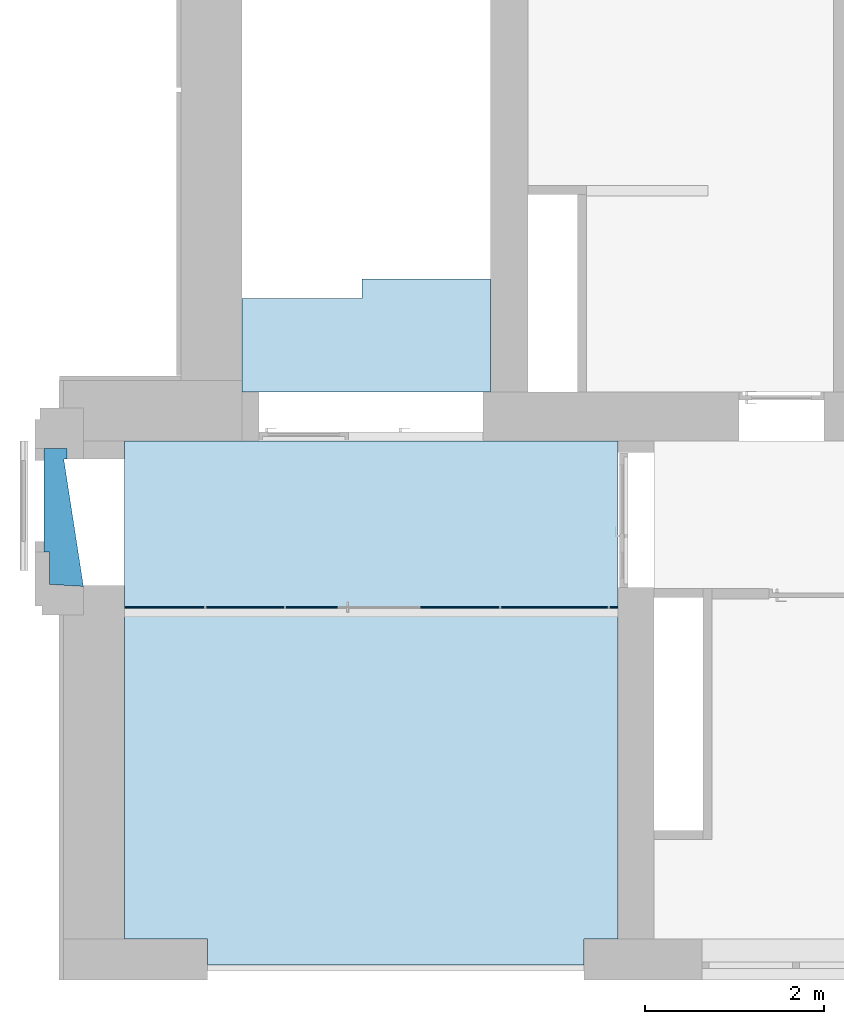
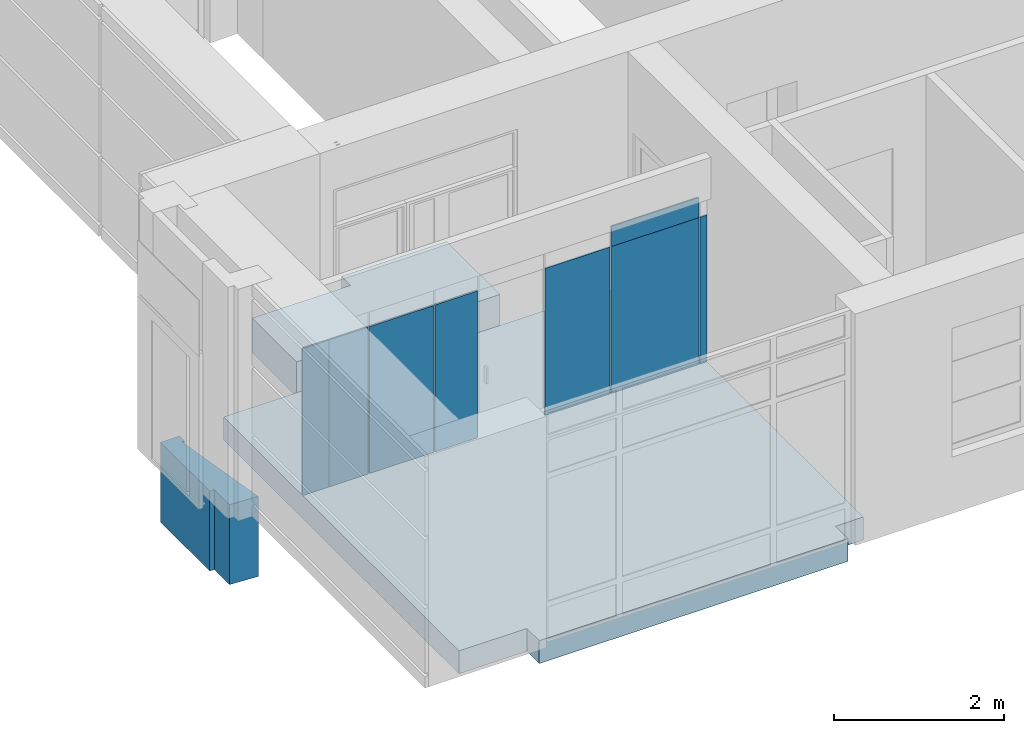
# One storey, part 24 of 73: 8 plates, 3 slabs, 1 element without a shape of its own.
"""IFC2X3 building model written with IfcOpenShell, lengths in millimetres."""

from ifc_helpers import new_model, entity, si_unit, converted_unit, derived_unit, direction, frame, origin, origin_2d_with_axis, place, context, subcontext, project, spatial, polyline, rectangle, outline, extrude, source, transform, mapped, material, layer, layer_set, layer_usage, type_object, type_shapes, element, aggregate, save


model = new_model("IFC2X3")

# Units and contexts
model_context = context("Model", 3, precision=0.01, world=origin(), true_north=direction((6.12303176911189e-17, 1.0)))
body_context = subcontext(model_context, "Body", "Model", "MODEL_VIEW")
ifc_project = project(units=[si_unit("LENGTHUNIT", "METRE", prefix="MILLI"), si_unit("AREAUNIT", "SQUARE_METRE"), si_unit("VOLUMEUNIT", "CUBIC_METRE"), converted_unit("PLANEANGLEUNIT", "DEGREE", entity("IfcRatioMeasure", 0.0174532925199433), si_unit("PLANEANGLEUNIT", "RADIAN"), dimensions=[0, 0, 0, 0, 0, 0, 0]), si_unit("MASSUNIT", "GRAM", prefix="KILO"), derived_unit("MASSDENSITYUNIT", [(si_unit("MASSUNIT", "GRAM", prefix="KILO"), 1), (si_unit("LENGTHUNIT", "METRE"), -3)]), si_unit("TIMEUNIT", "SECOND"), si_unit("FREQUENCYUNIT", "HERTZ"), si_unit("THERMODYNAMICTEMPERATUREUNIT", "DEGREE_CELSIUS"), derived_unit("THERMALTRANSMITTANCEUNIT", [(si_unit("MASSUNIT", "GRAM", prefix="KILO"), 1), (si_unit("THERMODYNAMICTEMPERATUREUNIT", "KELVIN"), -1), (si_unit("TIMEUNIT", "SECOND"), -3)]), derived_unit("VOLUMETRICFLOWRATEUNIT", [(si_unit("LENGTHUNIT", "METRE"), 3), (si_unit("TIMEUNIT", "SECOND"), -1)]), si_unit("ELECTRICCURRENTUNIT", "AMPERE"), si_unit("ELECTRICVOLTAGEUNIT", "VOLT"), si_unit("POWERUNIT", "WATT"), si_unit("FORCEUNIT", "NEWTON", prefix="KILO"), si_unit("ILLUMINANCEUNIT", "LUX"), si_unit("LUMINOUSFLUXUNIT", "LUMEN"), si_unit("LUMINOUSINTENSITYUNIT", "CANDELA"), derived_unit("USERDEFINED", [(si_unit("MASSUNIT", "GRAM", prefix="KILO"), -1), (si_unit("LENGTHUNIT", "METRE"), -2), (si_unit("TIMEUNIT", "SECOND"), 3), (si_unit("LUMINOUSFLUXUNIT", "LUMEN"), 1)]), derived_unit("LINEARVELOCITYUNIT", [(si_unit("LENGTHUNIT", "METRE"), 1), (si_unit("TIMEUNIT", "SECOND"), -1)]), si_unit("PRESSUREUNIT", "PASCAL"), derived_unit("USERDEFINED", [(si_unit("LENGTHUNIT", "METRE"), -2), (si_unit("MASSUNIT", "GRAM", prefix="KILO"), 1), (si_unit("TIMEUNIT", "SECOND"), -2)])], contexts=[model_context])

# Site, building, storey
site_placement = place(None, frame((-151.875543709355, 2715.0, 0.0)))
site = spatial("IfcSite", under=ifc_project, at=site_placement, Name="Surface", CompositionType="ELEMENT")
building_placement = place(site_placement, origin())
building = spatial("IfcBuilding", under=site, at=building_placement, CompositionType="ELEMENT")
storey_placement = place(building_placement, frame((0.0, 0.0, 6730.43000000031)))
storey = spatial("IfcBuildingStorey", under=building, at=storey_placement, Name="3 korrus", CompositionType="ELEMENT", Elevation=6730.43000000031)

# Curtain wall, plates
curtain_wall_type = type_object("IfcCurtainWallType", Name="Curtain Wall:Klaassein KLS-07", PredefinedType="NOTDEFINED")
curtain_wall_placement = place(storey_placement, frame((0.0, 0.0, -6730.43000000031)))
curtain_wall = element("IfcCurtainWall", 1, at=curtain_wall_placement, inside=storey, type_object=curtain_wall_type, Name="Curtain Wall:Klaassein KLS-07", ObjectType="Curtain Wall:Klaassein KLS-07")
ifc_material_1 = material(Name="<Unnamed>")
ifc_layer_1 = layer(ifc_material_1, 20.0)
ifc_layer_set_1 = layer_set([ifc_layer_1], Name="Curtain Wall:Klaassein KLS-01")
ifc_layer_usage_1 = layer_usage(ifc_layer_set_1, "AXIS3", "POSITIVE", 0.0)
plate_type_1 = type_object("IfcPlateType", Name="Glazed", PredefinedType="CURTAIN_PANEL", material=ifc_layer_set_1)
shared_shape_1 = source(origin(), body_context, "Body", "SweptSolid", [
    extrude(rectangle(XDim=20.0, YDim=880.000000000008, at=origin_2d_with_axis()), frame((0.0, 0.0, 0.0), z_axis=(0.0, 0.0, 1.0), x_axis=(0.0, 1.0, 0.0)), (0.0, 0.0, 1.0), 2110.0),
])
type_shapes(plate_type_1, [shared_shape_1])
plate_1_placement = place(curtain_wall_placement, frame((4199.87554580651, 4155.04146275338, 6730.43000000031)))
plate_1 = element("IfcPlate", 2, at=plate_1_placement, type_object=plate_type_1, material=ifc_layer_usage_1, Name="System Panel:Glazed", ObjectType="Glazed", context=body_context, shape_type="MappedRepresentation", body=[
    mapped(shared_shape_1, transform((0.0, 0.0, 0.0), scale=1.0)),
])
ifc_layer_usage_2 = layer_usage(ifc_layer_set_1, "AXIS3", "POSITIVE", 0.0)
plate_type_2 = type_object("IfcPlateType", Name="Glazed", PredefinedType="CURTAIN_PANEL", material=ifc_layer_set_1)
shared_shape_2 = source(origin(), body_context, "Body", "SweptSolid", [
    extrude(rectangle(XDim=20.0, YDim=580.0, at=origin_2d_with_axis()), frame((0.0, 0.0, 0.0), z_axis=(0.0, 0.0, 1.0), x_axis=(0.0, 1.0, 0.0)), (0.0, 0.0, 1.0), 2110.0),
])
type_shapes(plate_type_2, [shared_shape_2])
plate_2_placement = place(curtain_wall_placement, frame((2549.87554580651, 4155.04146275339, 6730.43000000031)))
plate_2 = element("IfcPlate", 3, at=plate_2_placement, type_object=plate_type_2, material=ifc_layer_usage_2, Name="System Panel:Glazed", ObjectType="Glazed", context=body_context, shape_type="MappedRepresentation", body=[
    mapped(shared_shape_2, transform((0.0, 0.0, 0.0), scale=1.0)),
])
ifc_layer_usage_3 = layer_usage(ifc_layer_set_1, "AXIS3", "POSITIVE", 0.0)
plate_type_3 = type_object("IfcPlateType", Name="Glazed", PredefinedType="CURTAIN_PANEL", material=ifc_layer_set_1)
shared_shape_3 = source(origin(), body_context, "Body", "SweptSolid", [
    extrude(rectangle(XDim=20.0, YDim=357.617983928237, at=origin_2d_with_axis()), frame((0.0, 0.0, 0.0), z_axis=(0.0, 0.0, 1.0), x_axis=(0.0, 1.0, 0.0)), (0.0, 0.0, 1.0), 2110.0),
])
type_shapes(plate_type_3, [shared_shape_3])
plate_3_placement = place(curtain_wall_placement, frame((638.684537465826, 4155.04146275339, 6730.43000000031)))
plate_3 = element("IfcPlate", 4, at=plate_3_placement, type_object=plate_type_3, material=ifc_layer_usage_3, Name="System Panel:Glazed", ObjectType="Glazed", context=body_context, shape_type="MappedRepresentation", body=[
    mapped(shared_shape_3, transform((0.0, 0.0, 0.0), scale=1.0)),
])
ifc_layer_usage_4 = layer_usage(ifc_layer_set_1, "AXIS3", "POSITIVE", 0.0)
plate_type_4 = type_object("IfcPlateType", Name="Glazed", PredefinedType="CURTAIN_PANEL", material=ifc_layer_set_1)
shared_shape_4 = source(origin(), body_context, "Body", "SweptSolid", [
    extrude(rectangle(XDim=20.0, YDim=532.382016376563, at=origin_2d_with_axis()), frame((0.0, 0.0, 0.0), z_axis=(0.0, 0.0, 1.0), x_axis=(0.0, 1.0, 0.0)), (0.0, 0.0, 1.0), 2110.0),
])
type_shapes(plate_type_4, [shared_shape_4])
plate_4_placement = place(curtain_wall_placement, frame((1083.68453761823, 4155.04146275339, 6730.43000000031)))
plate_4 = element("IfcPlate", 5, at=plate_4_placement, type_object=plate_type_4, material=ifc_layer_usage_4, Name="System Panel:Glazed", ObjectType="Glazed", context=body_context, shape_type="MappedRepresentation", body=[
    mapped(shared_shape_4, transform((0.0, 0.0, 0.0), scale=1.0)),
])
ifc_layer_usage_5 = layer_usage(ifc_layer_set_1, "AXIS3", "POSITIVE", 0.0)
plate_type_5 = type_object("IfcPlateType", Name="Glazed", PredefinedType="CURTAIN_PANEL", material=ifc_layer_set_1)
shared_shape_5 = source(origin(), body_context, "Body", "SweptSolid", [
    extrude(rectangle(XDim=20.0, YDim=870.0, at=origin_2d_with_axis()), frame((0.0, 0.0, 0.0), z_axis=(0.0, 0.0, 1.0), x_axis=(0.0, 1.0, 0.0)), (0.0, 0.0, 1.0), 2110.0),
])
type_shapes(plate_type_5, [shared_shape_5])
plate_5_placement = place(curtain_wall_placement, frame((1804.87554580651, 4155.04146275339, 6730.43000000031)))
plate_5 = element("IfcPlate", 6, at=plate_5_placement, type_object=plate_type_5, material=ifc_layer_usage_5, Name="System Panel:Glazed", ObjectType="Glazed", context=body_context, shape_type="MappedRepresentation", body=[
    mapped(shared_shape_5, transform((0.0, 0.0, 0.0), scale=1.0)),
])
ifc_layer_usage_6 = layer_usage(ifc_layer_set_1, "AXIS3", "POSITIVE", 0.0)
plate_type_6 = type_object("IfcPlateType", Name="Glazed", PredefinedType="CURTAIN_PANEL", material=ifc_layer_set_1)
shared_shape_6 = source(origin(), body_context, "Body", "SweptSolid", [
    extrude(rectangle(XDim=20.0, YDim=1190.0, at=origin_2d_with_axis()), frame((0.0, 0.0, 0.0), z_axis=(0.0, 0.0, 1.0), x_axis=(0.0, 1.0, 0.0)), (0.0, 0.0, 1.0), 2110.0),
])
type_shapes(plate_type_6, [shared_shape_6])
plate_6_placement = place(curtain_wall_placement, frame((5254.87554580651, 4155.04146275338, 6730.43000000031)))
plate_6 = element("IfcPlate", 7, at=plate_6_placement, type_object=plate_type_6, material=ifc_layer_usage_6, Name="System Panel:Glazed", ObjectType="Glazed", context=body_context, shape_type="MappedRepresentation", body=[
    mapped(shared_shape_6, transform((0.0, 0.0, 0.0), scale=1.0)),
])
ifc_layer_usage_7 = layer_usage(ifc_layer_set_1, "AXIS3", "POSITIVE", 0.0)
plate_type_7 = type_object("IfcPlateType", Name="Glazed", PredefinedType="CURTAIN_PANEL", material=ifc_layer_set_1)
shared_shape_7 = source(origin(), body_context, "Body", "SweptSolid", [
    extrude(rectangle(XDim=20.0, YDim=92.6179836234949, at=origin_2d_with_axis()), frame((0.0, 0.0, 0.0), z_axis=(0.0, 0.0, 1.0), x_axis=(0.0, 1.0, 0.0)), (0.0, 0.0, 1.0), 2110.0),
])
type_shapes(plate_type_7, [shared_shape_7])
plate_7_placement = place(curtain_wall_placement, frame((5916.18453761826, 4155.04146275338, 6730.43000000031)))
plate_7 = element("IfcPlate", 8, at=plate_7_placement, type_object=plate_type_7, material=ifc_layer_usage_7, Name="System Panel:Glazed", ObjectType="Glazed", context=body_context, shape_type="MappedRepresentation", body=[
    mapped(shared_shape_7, transform((0.0, 0.0, 0.0), scale=1.0)),
])
ifc_layer_usage_8 = layer_usage(ifc_layer_set_1, "AXIS3", "POSITIVE", 0.0)
plate_type_8 = type_object("IfcPlateType", Name="Glazed", PredefinedType="CURTAIN_PANEL", material=ifc_layer_set_1)
shared_shape_8 = source(origin(), body_context, "Body", "SweptSolid", [
    extrude(rectangle(XDim=20.0, YDim=1190.0, at=origin_2d_with_axis()), frame((0.0, 0.0, 0.0), z_axis=(0.0, 0.0, 1.0), x_axis=(0.0, 1.0, 0.0)), (0.0, 0.0, 1.0), 290.000000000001),
])
type_shapes(plate_type_8, [shared_shape_8])
plate_8_placement = place(curtain_wall_placement, frame((5254.87554580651, 4155.04146275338, 8840.43000000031)))
plate_8 = element("IfcPlate", 9, at=plate_8_placement, type_object=plate_type_8, material=ifc_layer_usage_8, Name="System Panel:Glazed", ObjectType="Glazed", context=body_context, shape_type="MappedRepresentation", body=[
    mapped(shared_shape_8, transform((0.0, 0.0, 0.0), scale=1.0)),
])
aggregate(curtain_wall, [plate_3, plate_4, plate_5, plate_2, plate_1, plate_6, plate_7, plate_8])

# Slabs
ifc_material_2 = material(Name="Viimistlus")
ifc_layer_2 = layer(ifc_material_2, 20.0)
ifc_material_3 = material(Name="Betoon")
ifc_layer_3 = layer(ifc_material_3, 30.0)
ifc_material_4 = material(Name="Helisummutusvill")
ifc_layer_4 = layer(ifc_material_4, 30.0)
ifc_material_5 = material(Name="__Kergkruus")
ifc_layer_5 = layer(ifc_material_5, 30.0)
ifc_material_6 = material(Name="Betoon paneel")
ifc_layer_6 = layer(ifc_material_6, 220.0)
ifc_layer_set_2 = layer_set([ifc_layer_2, ifc_layer_3, ifc_layer_4, ifc_layer_5, ifc_layer_6], Name="Floor:VL-1_vahelagi olemasolevas hoones")
ifc_layer_usage_9 = layer_usage(ifc_layer_set_2, "AXIS3", "POSITIVE", 0.0)
slab_1_placement = place(storey_placement, origin())
element("IfcSlab", 10, at=slab_1_placement, inside=storey, material=ifc_layer_usage_9, Name="Floor:VL-1_vahelagi olemasolevas hoones", ObjectType="Floor:VL-1_vahelagi olemasolevas hoones", PredefinedType="FLOOR", context=body_context, shape_type="SweptSolid", body=[
    extrude(outline(polyline([(-1315.0238418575, -2887.643631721), (4235.0715255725, -2887.643631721), (4235.0715255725, 2614.974352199), (-1315.0238418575, 2614.974352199), (-1315.0238418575, 2236.334639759), (-1605.0238418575, 2236.334639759), (-1605.0238418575, -1963.665360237), (-1315.0238418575, -1963.665360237), (-1315.0238418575, -2887.643631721)])), frame((3347.519177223, 1774.9284744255, 0.00203353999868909), z_axis=(0.0, 0.0, -1.0), x_axis=(0.0, 1.0, 0.0)), (0.0, 0.0, 1.0), 330.0),
])
ifc_material_7 = material(Name="GENEERILINE - KONSTRUKTRIOON")
ifc_layer_7 = layer(ifc_material_7, 1150.43203354)
ifc_layer_set_3 = layer_set([ifc_layer_7], Name="Floor:VAHELAGI - 005")
ifc_layer_usage_10 = layer_usage(ifc_layer_set_3, "AXIS3", "POSITIVE", 0.0)
slab_2_placement = place(storey_placement, origin())
element("IfcSlab", 11, at=slab_2_placement, inside=storey, material=ifc_layer_usage_10, Name="Floor:VAHELAGI - 005", ObjectType="Floor:VAHELAGI - 005", PredefinedType="FLOOR", context=body_context, shape_type="SweptSolid", body=[
    extrude(outline(polyline([(-457.295605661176, -163.229362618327), (701.429700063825, -163.229362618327), (701.429700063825, 95.3533706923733), (583.113049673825, 95.3533706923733), (583.113049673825, 59.5295658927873), (-838.708406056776, 278.654020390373), (-815.784046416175, -101.215801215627), (-457.297441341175, -101.215801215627), (-457.295605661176, -163.229362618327)])), frame((-278.654020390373, 5228.68123133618, 0.00203353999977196), z_axis=(0.0, 0.0, -1.0), x_axis=(0.0, 1.0, 0.0)), (0.0, 0.0, 1.0), 1150.43203354),
])
ifc_material_8 = material(Name="Betoonplaat")
ifc_layer_8 = layer(ifc_material_8, 500.0)
ifc_layer_set_4 = layer_set([ifc_layer_8], Name="Floor:Trepimade4")
ifc_layer_usage_11 = layer_usage(ifc_layer_set_4, "AXIS3", "POSITIVE", 0.0)
slab_3_placement = place(storey_placement, origin())
element("IfcSlab", 12, at=slab_3_placement, inside=storey, material=ifc_layer_usage_11, Name="Floor:Trepimade4", ObjectType="Floor:Trepimade4", PredefinedType="FLOOR", context=body_context, shape_type="SweptSolid", body=[
    extrude(outline(polyline([(-766.628954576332, -1370.24940270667), (274.615823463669, -1370.24940270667), (274.615823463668, -30.2494027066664), (492.013131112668, -30.2494027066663), (492.013131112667, 1400.43508666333), (-766.628954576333, 1400.56252416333), (-766.628954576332, -1370.24940270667)])), frame((3140.24940270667, 7326.62895457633, 0.00203353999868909), z_axis=(0.0, 0.0, -1.0), x_axis=(0.0, 1.0, 0.0)), (0.0, 0.0, 1.0), 500.0),
])

save(model, "model.ifc")
